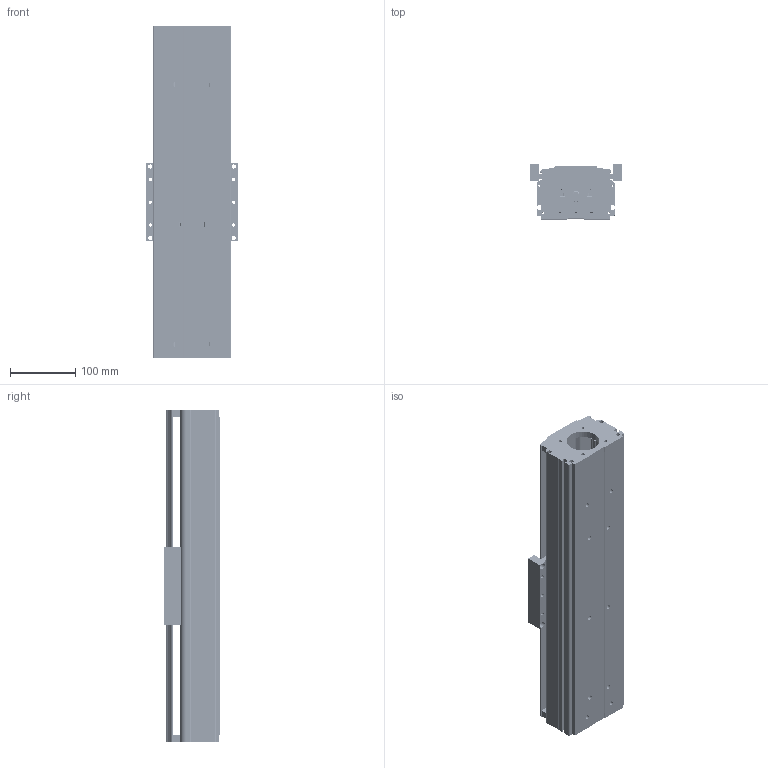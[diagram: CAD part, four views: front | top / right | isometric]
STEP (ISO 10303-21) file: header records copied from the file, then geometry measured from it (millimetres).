
FILE_DESCRIPTION (( 'STEP AP203' ), '1' );
FILE_NAME ('CF120-P300.STEP', '2016-02-23T01:49:15', ( 'Sky123.Org' ), ( 'Sky123.Org' ), 'SwSTEP 2.0', 'SolidWorks 2015', '' );
FILE_SCHEMA (( 'CONFIG_CONTROL_DESIGN' ));
Length unit declared in the file: millimetre
Products named in the file (15): CF120蹟譫釱; CF120傷裔耜啣-sigan; EGR15-P600-880; EGH-15-CABZnew; EK12+EF12-P600-744; SFU1605-3蹟譫; CF120-P350-540臏倰第; EK12; CF120-P350-560裔啣; 粣創結啣; CF120-P300; EF12; CF120賑雄啣; cf120-60萇儂釱
Assembly tree (18 placements, depth 3):
  CF120-P300
    cf120-60萇儂釱
    CF120傷裔耜啣-sigan
    EGH-15-CABZnew  x4
    SFU1605-3蹟譫
    EK12
      EK12
      粣創結啣
    EF12
    CF120賑雄啣
    CF120蹟譫釱
    EGR15-P600-880  x2
    EK12+EF12-P600-744
    CF120-P350-540臏倰第
    CF120-P350-560裔啣
Bounding box: 140 x 84.5 x 510 mm (x, y, z)
Volume: 2055979 mm3; surface area: 731419.7 mm2
Topology: 13 solids, 65 shells, 7289 faces, 27510 edges, 18909 vertices
Faces by surface type: plane 3537, bspline 2351, cylinder 1011, cone 150, torus 136, sphere 104
Entity records: 130525 total; most frequent: CARTESIAN_POINT 57822, ORIENTED_EDGE 15542, DIRECTION 12103, EDGE_CURVE 8895, VERTEX_POINT 6062, VECTOR 5193, LINE 5193, AXIS2_PLACEMENT_3D 3455
